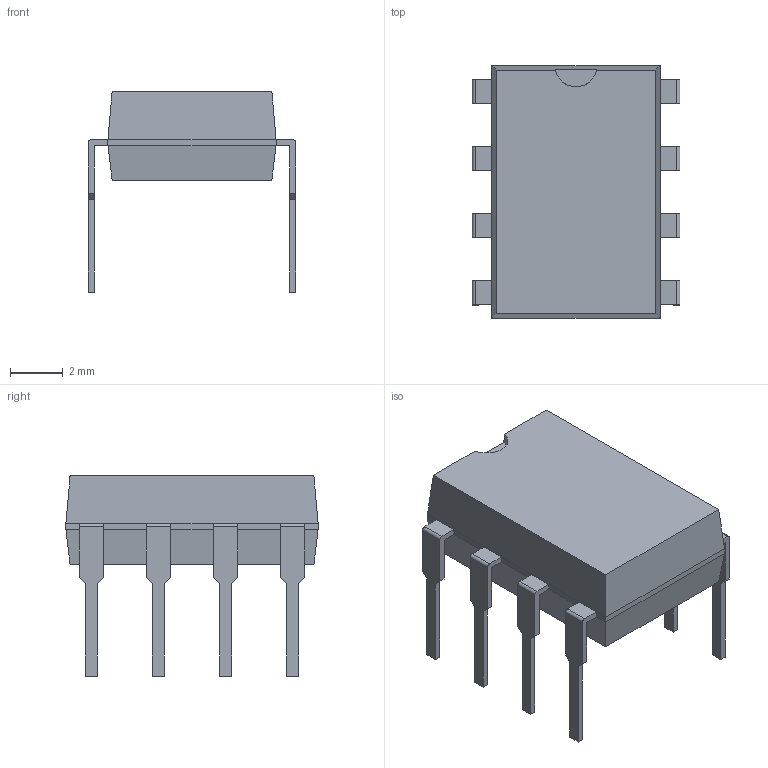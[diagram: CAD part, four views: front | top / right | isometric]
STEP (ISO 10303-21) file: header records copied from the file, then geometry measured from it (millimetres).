
FILE_DESCRIPTION(('FreeCAD Model'),'2;1');
FILE_NAME('/var/www/3D/0T/891.4.2.stp','2018-03-16T13:17:59',('Author'), (''),'Open CASCADE STEP processor 6.8','FreeCAD','Unknown');
FILE_SCHEMA(('AUTOMOTIVE_DESIGN_CC2 { 1 2 10303 214 -1 1 5 4 }'));
Length unit declared in the file: millimetre
Products named in the file (3): ASSEMBLY; Body; PinsArrayLR
Assembly tree (2 placements, depth 2):
  ASSEMBLY
    Body
    PinsArrayLR
Bounding box: 7.85 x 9.53 x 7.56 mm (x, y, z)
Volume: 201 mm3; surface area: 306.6 mm2
Topology: 9 solids, 9 shells, 120 faces, 298 edges, 196 vertices
Faces by surface type: plane 111, cylinder 9
Entity records: 7521 total; most frequent: CARTESIAN_POINT 1279, DIRECTION 1148, LINE 850, VECTOR 850, ORIENTED_EDGE 596, PCURVE 596, DEFINITIONAL_REPRESENTATION 596, EDGE_CURVE 298
